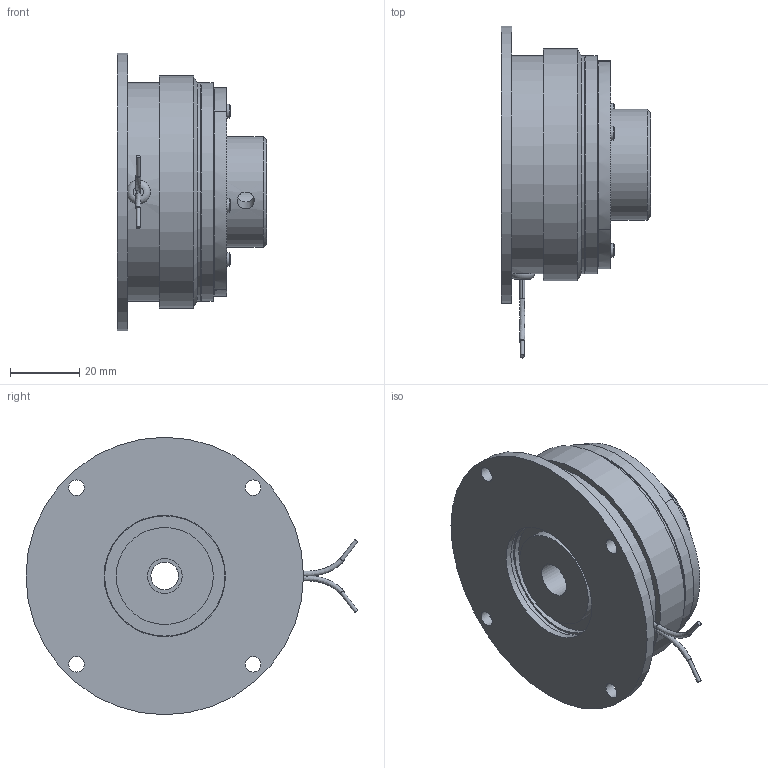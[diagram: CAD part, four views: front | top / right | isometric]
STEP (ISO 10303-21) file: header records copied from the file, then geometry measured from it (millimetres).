
FILE_DESCRIPTION(/* description */ (''),/* implementation_level */ '2;1');
FILE_NAME(/* name */ 'X:\INVENTOR\DISEGNI\08_Freni_Friz_Elettmag_Monodisco\08_20 ESAL\08_20_063_02 ESAL063_ME\08_20_063_02 ESAL063_ME@STEP.stp',/* time_stamp */ '2019-06-26T13:51:14+02:00',/* author */ ('stefano'),/* organization */ (''),/* preprocessor_version */ 'ST-DEVELOPER v17',/* originating_system */ 'Autodesk Inventor 2018',/* authorisation */ '');
FILE_SCHEMA (('AUTOMOTIVE_DESIGN { 1 0 10303 214 3 1 1 }'));
Length unit declared in the file: millimetre
Products named in the file (1): 08_20_063_02 ESAL063_ME_Substitute_1
Bounding box: 43 x 95.72 x 80 mm (x, y, z)
Volume: 100600.9 mm3; surface area: 39769.9 mm2
Topology: 4 solids, 4 shells, 183 faces, 485 edges, 333 vertices
Faces by surface type: cylinder 87, plane 75, cone 12, bspline 5, torus 4
Full cylindrical faces by diameter (mm): 1.154 x2, 1.5 x1, 2.5 x3, 4 x3, 4.5 x4, 4.917 x1, 7.6 x3, 8 x4, 10 x4, 28 x2, 32 x1, 34.7 x1, 35 x4, 36 x1, 40 x1, 42 x1, 58 x1, 60 x1, 63 x3, 63.3 x1, 67 x1, 80 x1
Entity records: 6522 total; most frequent: CARTESIAN_POINT 1453, DIRECTION 1107, ORIENTED_EDGE 966, AXIS2_PLACEMENT_3D 485, EDGE_CURVE 483, VERTEX_POINT 334, CIRCLE 306, EDGE_LOOP 246
